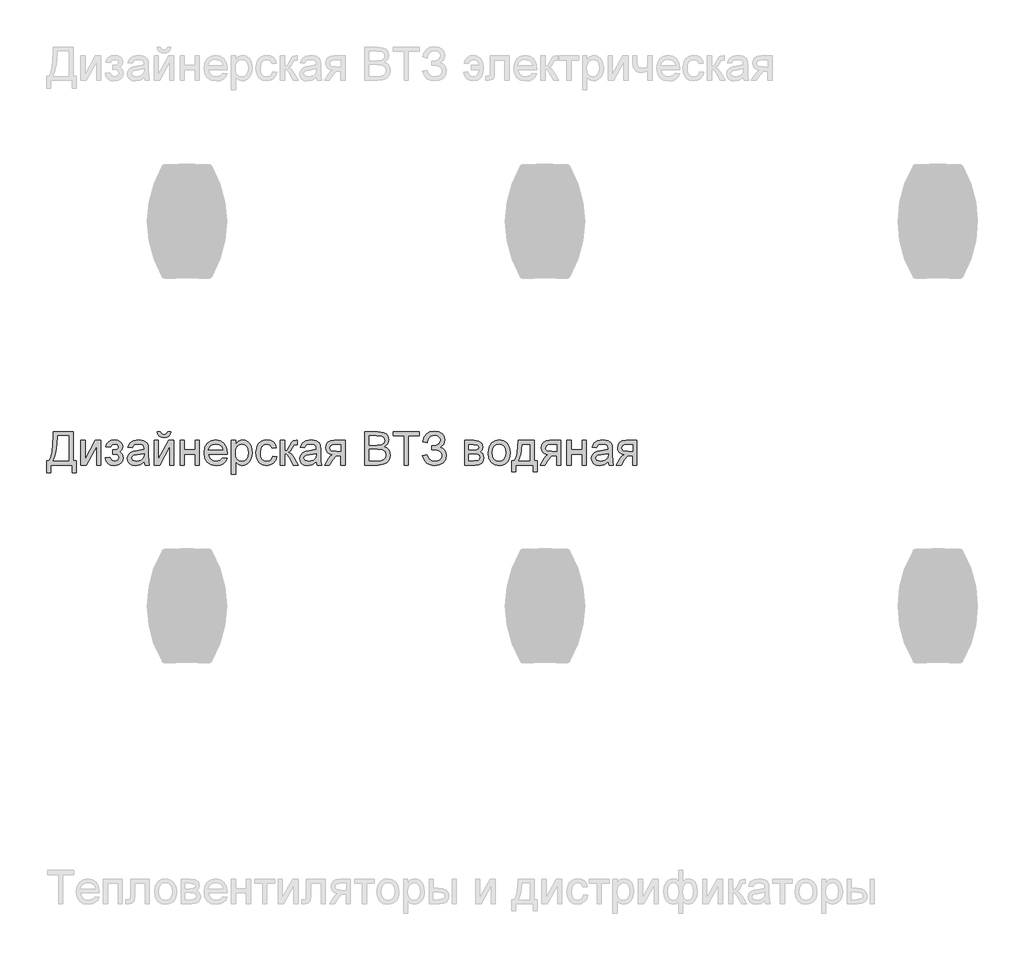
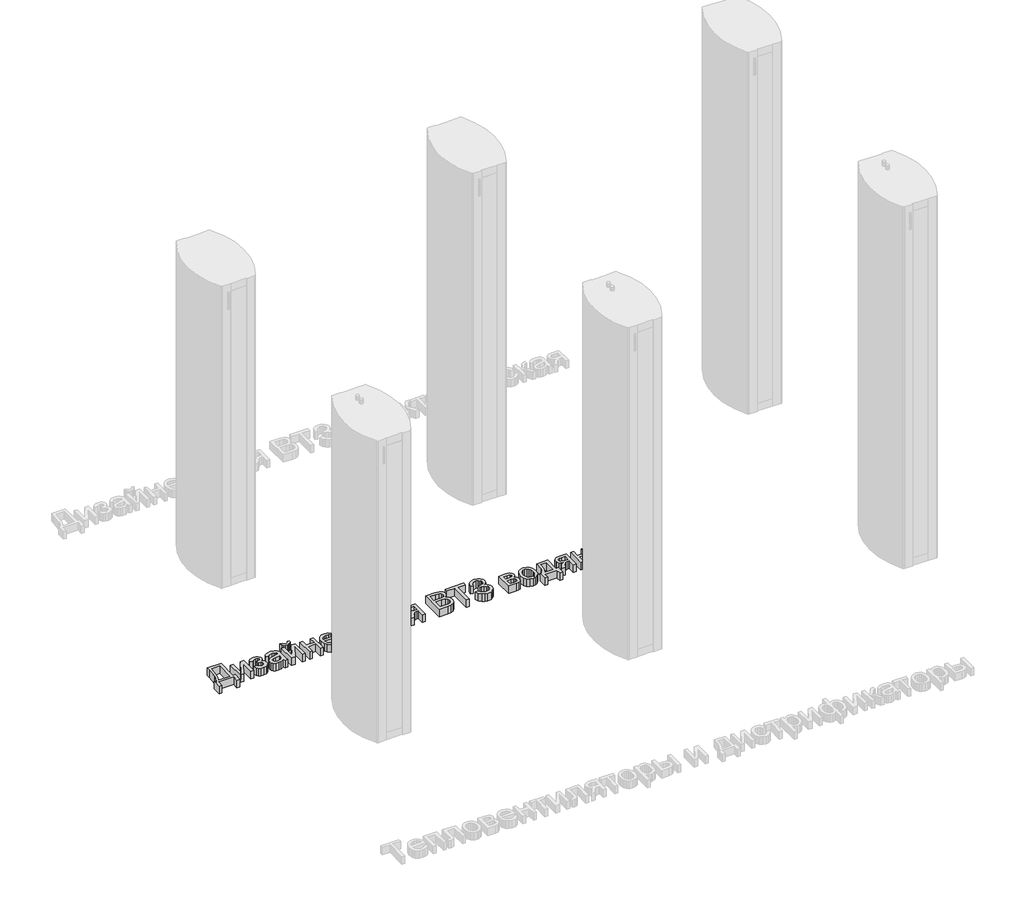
# One storey, part 3 of 6: 1 proxy.
"""IFC4 building model written with IfcOpenShell, lengths in millimetres."""

from ifc_helpers import new_model, si_unit, origin, origin_with_axes, place, context, project, spatial, polyline, outline, extrude, element, save

model = new_model("IFC4")

# Units and contexts
model_context = context("Model", 3, world=origin())
ifc_project = project(units=[si_unit("LENGTHUNIT", "METRE", prefix="MILLI")], contexts=[model_context])

# Site, building, storey
site = spatial("IfcSite", under=ifc_project)
building = spatial("IfcBuilding", under=site)
storey = spatial("IfcBuildingStorey", under=building, Name="Уровень 1", Elevation=0.0)

# Proxy
placement = place(None, origin())
element("IfcBuildingElementProxy", 1, Name="600 мм Arial", ObjectType="600 мм Arial", at=placement, inside=storey, context=model_context, shape_type="SweptSolid", body=[
    extrude(outline(polyline([(-13728.2393445, -2903.3925368), (-13640.5470368, -2903.3925368), (-13640.5470368, -3032.6233061), (-13626.700883, -3032.6233061), (-13626.700883, -3085.7002291), (-13645.1624214, -3085.7002291), (-13645.1624214, -3051.0848445), (-13739.777806, -3051.0848445), (-13739.777806, -3085.7002291), (-13758.2393445, -3085.7002291), (-13758.2393445, -3032.6233061), (-13746.700883, -3032.6233061), (-13738.6239599, -3015.8767616), (-13732.8547291, -2992.3198205), (-13728.2393445, -2924.7747484), (-13728.2393445, -2903.3925368)]), holes=[polyline([(-13659.0085753, -2921.8540753), (-13709.777806, -2921.8540753), (-13709.777806, -2929.2819599), (-13713.527806, -2979.8709022), (-13719.0806907, -3009.1046762), (-13728.2393445, -3032.6233061), (-13659.0085753, -3032.6233061), (-13659.0085753, -2921.8540753)])]), origin_with_axes(), (0.0, 0.0, 1.0), 50.0),
    extrude(outline(polyline([(-13605.9316522, -2942.6233061), (-13587.4701137, -2942.6233061), (-13587.4701137, -3025.3396522), (-13542.1095368, -2942.6233061), (-13518.2393445, -2942.6233061), (-13518.2393445, -3051.0848445), (-13536.700883, -3051.0848445), (-13536.700883, -2968.8733061), (-13581.7729983, -3051.0848445), (-13605.9316522, -3051.0848445), (-13605.9316522, -2942.6233061)])), origin_with_axes(), (0.0, 0.0, 1.0), 50.0),
    extrude(outline(polyline([(-13465.1624214, -3002.6233061), (-13465.1624214, -2984.1617676), (-13450.5951137, -2983.4406137), (-13443.2393445, -2979.6004695), (-13439.777806, -2971.577633), (-13444.4112195, -2962.2567195), (-13456.3643445, -2958.7771522), (-13468.7141041, -2962.2386907), (-13476.700883, -2972.6233061), (-13497.4701137, -2970.3156137), (-13491.9623012, -2957.1906137), (-13483.5879022, -2947.8156137), (-13472.3469166, -2942.1906137), (-13458.2393445, -2940.3156137), (-13442.8066522, -2942.60077), (-13431.1239599, -2949.4562387), (-13423.7681907, -2959.4847844), (-13421.3162676, -2971.2891714), (-13424.8048493, -2982.7555176), (-13435.2705945, -2991.6257099), (-13423.0650657, -3003.1281137), (-13419.0085753, -3019.6785945), (-13421.5821931, -3033.2678373), (-13429.3030464, -3044.0355657), (-13441.6482988, -3051.053294), (-13458.0951137, -3053.3925368), (-13474.1813517, -3051.2290753), (-13486.4905464, -3044.7386907), (-13495.0226979, -3033.921383), (-13499.777806, -3018.7771522), (-13479.0085753, -3016.4694599), (-13470.6792483, -3030.0992676), (-13456.3282868, -3034.9309984), (-13442.8427099, -3030.2975849), (-13437.4701137, -3018.452633), (-13440.8054503, -3008.7531137), (-13447.9088157, -3003.5608061), (-13461.5566522, -3002.515133), (-13465.1624214, -3002.6233061)])), origin_with_axes(), (0.0, 0.0, 1.0), 50.0),
    extrude(outline(polyline([(-13326.700883, -3037.2386907), (-13344.6035272, -3049.7507099), (-13364.3811714, -3053.3925368), (-13379.8093565, -3051.202032), (-13391.1900657, -3044.6305176), (-13398.207794, -3034.6515512), (-13400.5470368, -3022.2386907), (-13397.013383, -3007.6353253), (-13387.7285272, -2997.0343637), (-13374.8018445, -2990.9766714), (-13358.8282868, -2988.2002291), (-13326.809056, -2981.8540753), (-13326.700883, -2977.7434984), (-13327.9719166, -2969.5043157), (-13331.7850176, -2964.1136907), (-13340.3126618, -2960.1112868), (-13352.1936714, -2958.7771522), (-13370.871556, -2962.3288349), (-13379.777806, -2974.9309984), (-13398.2393445, -2972.6233061), (-13390.2525657, -2954.5944599), (-13374.1708349, -2944.0295561), (-13349.8138637, -2940.3156137), (-13327.4400657, -2943.5968637), (-13314.8018445, -2951.8360464), (-13309.1407868, -2964.3660945), (-13308.2393445, -2980.5199407), (-13308.2393445, -3003.4886907), (-13307.3018445, -3035.562008), (-13303.6239599, -3051.0848445), (-13322.0854983, -3051.0848445), (-13326.700883, -3037.2386907)]), holes=[polyline([(-13326.700883, -3000.3156137), (-13356.4845368, -3005.9766714), (-13372.3679503, -3008.9694599), (-13379.5614599, -3013.8372484), (-13382.0854983, -3020.9406137), (-13376.5867003, -3030.9285945), (-13360.450883, -3034.9309984), (-13341.7729983, -3030.5139311), (-13329.7297291, -3019.8228253), (-13326.809056, -3005.5439791), (-13326.700883, -3000.3156137)])]), origin_with_axes(), (0.0, 0.0, 1.0), 50.0),
    extrude(outline(polyline([(-13222.8547291, -2903.3925368), (-13209.0085753, -2903.3925368), (-13211.9878421, -2915.2149527), (-13217.9689118, -2923.9273926), (-13226.6813517, -2929.2954815), (-13237.8547291, -2931.0848445), (-13249.9791282, -2929.3090032), (-13259.3811714, -2923.9814791), (-13265.8084551, -2915.2825609), (-13269.0085753, -2903.3925368), (-13255.1624214, -2903.3925368), (-13249.9701137, -2913.7951811), (-13239.513383, -2917.2386907), (-13228.0470368, -2913.9033541), (-13222.8547291, -2903.3925368)])), origin_with_axes(), (0.0, 0.0, 1.0), 50.0),
    extrude(outline(polyline([(-13282.8547291, -2942.6233061), (-13264.3931907, -2942.6233061), (-13264.3931907, -3025.3396522), (-13219.0326137, -2942.6233061), (-13195.1624214, -2942.6233061), (-13195.1624214, -3051.0848445), (-13213.6239599, -3051.0848445), (-13213.6239599, -2968.8733061), (-13258.6960753, -3051.0848445), (-13282.8547291, -3051.0848445), (-13282.8547291, -2942.6233061)])), origin_with_axes(), (0.0, 0.0, 1.0), 50.0),
    extrude(outline(polyline([(-13167.4701137, -2942.6233061), (-13149.0085753, -2942.6233061), (-13149.0085753, -2984.1617676), (-13100.5470368, -2984.1617676), (-13100.5470368, -2942.6233061), (-13082.0854983, -2942.6233061), (-13082.0854983, -3051.0848445), (-13100.5470368, -3051.0848445), (-13100.5470368, -3002.6233061), (-13149.0085753, -3002.6233061), (-13149.0085753, -3051.0848445), (-13167.4701137, -3051.0848445), (-13167.4701137, -2942.6233061)])), origin_with_axes(), (0.0, 0.0, 1.0), 50.0),
    extrude(outline(polyline([(-12978.4556907, -3018.7771522), (-12960.3547291, -3021.0848445), (-12966.8766642, -3034.7236666), (-12977.2838157, -3044.9189791), (-12991.3418084, -3051.2741474), (-13008.8162676, -3053.3925368), (-13030.4779262, -3049.7371883), (-13047.1455945, -3038.7711426), (-13057.7735993, -3021.2065392), (-13061.3162676, -2997.7555176), (-13057.7375416, -2973.5157339), (-13047.0013637, -2955.3877291), (-13030.559056, -2944.0836426), (-13009.8619407, -2940.3156137), (-12989.8093565, -2944.0746282), (-12973.7862195, -2955.3516714), (-12963.2799094, -2973.4436186), (-12959.777806, -2997.6473445), (-12959.8859791, -3002.6233061), (-13042.8547291, -3002.6233061), (-13039.6591161, -3016.4424166), (-13032.2357387, -3026.6016714), (-13021.5220969, -3032.8486666), (-13008.4556907, -3034.9309984), (-12990.3547291, -3031.0728253), (-12978.4556907, -3018.7771522)]), holes=[polyline([(-13042.8547291, -2984.1617676), (-12978.2393445, -2984.1617676), (-12980.7363397, -2974.4081618), (-12985.6311714, -2967.4309984), (-12996.3943926, -2960.9406137), (-13009.934056, -2958.7771522), (-13022.3784671, -2960.5034142), (-13032.668431, -2965.6822003), (-13039.8213758, -2973.7546162), (-13042.8547291, -2984.1617676)])]), origin_with_axes(), (0.0, 0.0, 1.0), 50.0),
    extrude(outline(polyline([(-12941.3162676, -3092.6233061), (-12941.3162676, -2942.6233061), (-12922.8547291, -2942.6233061), (-12922.8547291, -2960.7242676), (-12910.090306, -2945.4177772), (-12892.8547291, -2940.3156137), (-12880.3697532, -2942.1004695), (-12869.4532868, -2947.4550368), (-12860.5650657, -2956.0547964), (-12854.1648253, -2967.5752291), (-12849.0085753, -2996.0247484), (-12850.4644046, -3011.8135104), (-12854.8318926, -3025.9346041), (-12861.9713157, -3037.671383), (-12871.7429503, -3046.3072003), (-12883.1236594, -3051.6212027), (-12895.090306, -3053.3925368), (-12911.154008, -3048.6509503), (-12922.8547291, -3036.6617676), (-12922.8547291, -3092.6233061), (-12941.3162676, -3092.6233061)]), holes=[polyline([(-12922.8547291, -2997.7194599), (-12920.8580344, -3014.2699407), (-12914.8679503, -3025.8444599), (-12906.0293084, -3032.6593637), (-12895.4869407, -3034.9309984), (-12884.7732988, -3032.5782339), (-12875.7092964, -3025.5199407), (-12869.5299094, -3013.5217436), (-12867.4701137, -2996.3492676), (-12869.4803301, -2979.8889311), (-12875.5109791, -2968.1521522), (-12884.3360993, -2961.1209022), (-12894.7297291, -2958.7771522), (-12905.1639238, -2961.2696402), (-12914.3270849, -2968.7471041), (-12920.7228181, -2980.975169), (-12922.8547291, -2997.7194599)])]), origin_with_axes(), (0.0, 0.0, 1.0), 50.0),
    extrude(outline(polyline([(-12759.0085753, -3011.8540753), (-12740.5470368, -3014.1617676), (-12745.6942724, -3030.5815392), (-12755.3667483, -3042.9898926), (-12768.654008, -3050.7918758), (-12784.6455945, -3053.3925368), (-12804.2835152, -3049.7642315), (-12819.6395849, -3038.8793157), (-12829.5509431, -3021.2155537), (-12832.8547291, -2997.2507099), (-12827.2117003, -2966.5836426), (-12820.090306, -2955.085746), (-12810.012181, -2946.8781137), (-12797.9553902, -2941.9562387), (-12784.8979983, -2940.3156137), (-12769.2985392, -2942.5692195), (-12756.8270849, -2949.3300368), (-12747.88027, -2960.2374887), (-12742.8547291, -2974.9309984), (-12761.3162676, -2977.2386907), (-12769.8799695, -2963.4105657), (-12784.7537676, -2958.7771522), (-12796.6843565, -2961.0578012), (-12806.154008, -2967.8997484), (-12812.333395, -2979.6725849), (-12814.3931907, -2996.7459022), (-12812.3784671, -3014.0490873), (-12806.3342964, -3025.8624887), (-12797.035919, -3032.663871), (-12785.2585753, -3034.9309984), (-12775.6987796, -3033.5157339), (-12767.8607387, -3029.2699407), (-12762.1591161, -3022.0854455), (-12759.0085753, -3011.8540753)])), origin_with_axes(), (0.0, 0.0, 1.0), 50.0),
    extrude(outline(polyline([(-12724.3931907, -2942.6233061), (-12705.9316522, -2942.6233061), (-12705.9316522, -2988.7771522), (-12693.5638637, -2985.4598445), (-12683.4316522, -2966.1329214), (-12675.012181, -2949.4562387), (-12667.5842964, -2944.0295561), (-12654.0806907, -2942.6233061), (-12650.5470368, -2942.6233061), (-12650.5470368, -2961.1930176), (-12655.5229983, -2961.0848445), (-12664.5374214, -2963.0319599), (-12670.8835753, -2975.1834022), (-12678.3294887, -2988.3264311), (-12688.7681907, -2994.7627291), (-12677.121556, -3001.9472243), (-12665.6912676, -3017.0824407), (-12645.9316522, -3051.0848445), (-12666.9172291, -3051.0848445), (-12686.2802099, -3017.8035945), (-12696.0157868, -3003.7230657), (-12705.9316522, -3000.3156137), (-12705.9316522, -3051.0848445), (-12724.3931907, -3051.0848445), (-12724.3931907, -2942.6233061)])), origin_with_axes(), (0.0, 0.0, 1.0), 50.0),
    extrude(outline(polyline([(-12565.1624214, -3037.2386907), (-12583.0650657, -3049.7507099), (-12602.8427099, -3053.3925368), (-12618.270895, -3051.202032), (-12629.6516041, -3044.6305176), (-12636.6693325, -3034.6515512), (-12639.0085753, -3022.2386907), (-12635.4749214, -3007.6353253), (-12626.1900657, -2997.0343637), (-12613.263383, -2990.9766714), (-12597.2898253, -2988.2002291), (-12565.2705945, -2981.8540753), (-12565.1624214, -2977.7434984), (-12566.4334551, -2969.5043157), (-12570.246556, -2964.1136907), (-12578.7742003, -2960.1112868), (-12590.6552099, -2958.7771522), (-12609.3330945, -2962.3288349), (-12618.2393445, -2974.9309984), (-12636.700883, -2972.6233061), (-12628.7141041, -2954.5944599), (-12612.6323733, -2944.0295561), (-12588.2754022, -2940.3156137), (-12565.9016041, -2943.5968637), (-12553.263383, -2951.8360464), (-12547.6023253, -2964.3660945), (-12546.700883, -2980.5199407), (-12546.700883, -3003.4886907), (-12545.763383, -3035.562008), (-12542.0854983, -3051.0848445), (-12560.5470368, -3051.0848445), (-12565.1624214, -3037.2386907)]), holes=[polyline([(-12565.1624214, -3000.3156137), (-12594.9460753, -3005.9766714), (-12610.8294887, -3008.9694599), (-12618.0229983, -3013.8372484), (-12620.5470368, -3020.9406137), (-12615.0482387, -3030.9285945), (-12598.9124214, -3034.9309984), (-12580.2345368, -3030.5139311), (-12568.1912676, -3019.8228253), (-12565.2705945, -3005.5439791), (-12565.1624214, -3000.3156137)])]), origin_with_axes(), (0.0, 0.0, 1.0), 50.0),
    extrude(outline(polyline([(-12438.2393445, -2942.6233061), (-12438.2393445, -3051.0848445), (-12456.700883, -3051.0848445), (-12456.700883, -3009.546383), (-12466.7609791, -3009.546383), (-12480.4629022, -3011.890133), (-12493.3354983, -3027.6473445), (-12508.0470368, -3051.0848445), (-12529.3931907, -3051.0848445), (-12510.8595368, -3021.4454214), (-12502.6744407, -3010.8084022), (-12495.138383, -3006.0848445), (-12507.7585753, -3002.217657), (-12516.6287676, -2994.8709022), (-12521.8751618, -2985.0992676), (-12523.6239599, -2973.9574407), (-12521.2351378, -2961.3192195), (-12514.0686714, -2951.3132099), (-12502.3769647, -2944.795782), (-12486.4124214, -2942.6233061), (-12438.2393445, -2942.6233061)]), holes=[polyline([(-12456.700883, -2961.0848445), (-12481.0398253, -2961.0848445), (-12493.6104383, -2962.1530537), (-12500.7453541, -2965.3576811), (-12505.1624214, -2975.3636907), (-12503.5353181, -2982.3994479), (-12498.654008, -2987.280758), (-12475.5951137, -2991.0848445), (-12456.700883, -2991.0848445), (-12456.700883, -2961.0848445)])]), origin_with_axes(), (0.0, 0.0, 1.0), 50.0),
    extrude(outline(polyline([(-12350.5470368, -3051.0848445), (-12350.5470368, -2903.3925368), (-12294.1888637, -2903.3925368), (-12266.5867003, -2907.7374887), (-12257.3108589, -2913.2498085), (-12250.2886233, -2921.0968637), (-12244.3931907, -2939.9910945), (-12249.3511233, -2957.2447003), (-12264.3330945, -2970.3156137), (-12253.8718565, -2975.7783541), (-12246.1419887, -2984.0896522), (-12241.3688517, -2994.6996282), (-12239.777806, -3007.0584022), (-12244.122758, -3026.9081618), (-12254.8859791, -3041.0427772), (-12270.949681, -3048.5427772), (-12294.621556, -3051.0848445), (-12350.5470368, -3051.0848445)]), holes=[polyline([(-12332.0854983, -2963.3925368), (-12298.371556, -2963.3925368), (-12278.684056, -2961.8059984), (-12266.8391041, -2954.9730657), (-12262.8547291, -2942.9478253), (-12266.5686714, -2930.9045561), (-12277.2056907, -2923.7831618), (-12300.9316522, -2921.8540753), (-12332.0854983, -2921.8540753), (-12332.0854983, -2963.3925368)]), polyline([(-12332.0854983, -3032.6233061), (-12294.2249214, -3032.6233061), (-12280.5229983, -3031.9021522), (-12268.9304503, -3027.8817195), (-12261.2501618, -3019.6785945), (-12258.2393445, -3007.2386907), (-12261.7729983, -2992.8877291), (-12273.2213157, -2984.3240272), (-12296.027806, -2981.8540753), (-12332.0854983, -2981.8540753), (-12332.0854983, -3032.6233061)])]), origin_with_axes(), (0.0, 0.0, 1.0), 50.0),
    extrude(outline(polyline([(-12177.4701137, -3051.0848445), (-12177.4701137, -2921.8540753), (-12225.9316522, -2921.8540753), (-12225.9316522, -2903.3925368), (-12110.5470368, -2903.3925368), (-12110.5470368, -2921.8540753), (-12159.0085753, -2921.8540753), (-12159.0085753, -3051.0848445), (-12177.4701137, -3051.0848445)])), origin_with_axes(), (0.0, 0.0, 1.0), 50.0),
    extrude(outline(polyline([(-12096.700883, -3009.546383), (-12078.2393445, -3004.9309984), (-12066.8992003, -3024.9249887), (-12056.1855584, -3032.429496), (-12042.4701137, -3034.9309984), (-12028.5743806, -3033.0514912), (-12017.9689118, -3027.4129695), (-12011.2486594, -3019.1151931), (-12009.0085753, -3009.2579214), (-12011.4559911, -2998.9318998), (-12018.7982387, -2990.9586426), (-12030.3592363, -2985.8609863), (-12045.4629022, -2984.1617676), (-12055.1624214, -2984.1617676), (-12055.1624214, -2965.7002291), (-12034.2669887, -2964.2038349), (-12021.4845368, -2956.5596041), (-12015.9316522, -2942.5872484), (-12017.7796089, -2933.8928373), (-12023.3234791, -2926.4153734), (-12032.0223974, -2921.2636306), (-12043.3354983, -2919.546383), (-12062.1756426, -2924.8288349), (-12072.9568926, -2938.8372484), (-12075.9316522, -2951.8540753), (-12094.3931907, -2947.2386907), (-12088.657764, -2927.046383), (-12078.2663878, -2912.6233061), (-12063.219062, -2903.9694599), (-12043.5157868, -2901.0848445), (-12024.5088758, -2904.0821402), (-12009.8919887, -2913.0740272), (-12000.5755825, -2926.0773325), (-11997.4701137, -2941.108883), (-12002.3018445, -2959.3811186), (-12016.7970368, -2973.0199407), (-12006.5296089, -2977.7480056), (-11998.0830945, -2985.7302772), (-11992.4310512, -2996.2816594), (-11990.5470368, -3008.7170561), (-11994.1618205, -3026.2005296), (-12005.0061714, -3040.5740272), (-12021.8180705, -3050.1879094), (-12043.3354983, -3053.3925368), (-12062.0584551, -3050.6521522), (-12077.1936714, -3042.4309984), (-12088.7411474, -3028.7290753), (-12096.700883, -3009.546383)])), origin_with_axes(), (0.0, 0.0, 1.0), 50.0),
    extrude(outline(polyline([(-11909.777806, -2942.6233061), (-11869.1047291, -2942.6233061), (-11846.8030464, -2945.093258), (-11834.2549695, -2954.1437387), (-11829.0085753, -2969.9189791), (-11832.1816522, -2982.7374887), (-11841.7369407, -2991.8781137), (-11829.3330945, -3001.8841234), (-11824.3931907, -3019.2819599), (-11827.5211955, -3033.3534743), (-11834.9580945, -3043.2603253), (-11846.730931, -3049.1287147), (-11862.8667483, -3051.0848445), (-11909.777806, -3051.0848445), (-11909.777806, -2942.6233061)]), holes=[polyline([(-11891.3162676, -2984.1617676), (-11873.0710753, -2984.1617676), (-11858.0169887, -2983.2242676), (-11850.6972772, -2979.4742676), (-11847.4701137, -2972.6954214), (-11848.8853782, -2967.1876089), (-11853.1311714, -2963.6449407), (-11872.4941522, -2961.0848445), (-11891.3162676, -2961.0848445), (-11891.3162676, -2984.1617676)]), polyline([(-11891.3162676, -3032.6233061), (-11868.6720368, -3032.6233061), (-11848.5879022, -3029.2879695), (-11844.4322532, -3024.7401931), (-11842.8547291, -3017.7675368), (-11846.0097772, -3008.8793157), (-11854.230931, -3003.7050368), (-11870.4749214, -3002.6233061), (-11891.3162676, -3002.6233061), (-11891.3162676, -3032.6233061)])]), origin_with_axes(), (0.0, 0.0, 1.0), 50.0),
    extrude(outline(polyline([(-11805.9316522, -2996.8540753), (-11801.9382628, -2970.7032339), (-11789.9580945, -2952.3228253), (-11775.1564118, -2943.3174166), (-11757.434056, -2940.3156137), (-11738.0395248, -2943.9709623), (-11722.5482387, -2954.937008), (-11712.3934911, -2972.3483662), (-11709.0085753, -2995.3396522), (-11710.5049695, -3013.9904936), (-11714.9941522, -3028.1882099), (-11722.3454142, -3038.8207219), (-11732.4280464, -3046.7759503), (-11744.4037075, -3051.7383902), (-11757.434056, -3053.3925368), (-11777.0629623, -3049.7507099), (-11792.5362195, -3038.8252291), (-11802.582794, -3021.0487868), (-11805.9316522, -2996.8540753)]), holes=[polyline([(-11787.4701137, -2996.8180176), (-11785.3336955, -3013.5262508), (-11778.9244407, -3025.4297964), (-11769.279008, -3032.5556979), (-11757.434056, -3034.9309984), (-11745.6431907, -3032.5421762), (-11736.0157868, -3025.3757099), (-11729.606532, -3013.3144118), (-11727.4701137, -2996.2410945), (-11729.6200536, -2980.0196402), (-11736.0698733, -2968.2783541), (-11745.7107988, -2961.1524527), (-11757.434056, -2958.7771522), (-11769.279008, -2961.1434383), (-11778.9244407, -2968.2422964), (-11785.3336955, -2980.1187988), (-11787.4701137, -2996.8180176)])]), origin_with_axes(), (0.0, 0.0, 1.0), 50.0),
    extrude(outline(polyline([(-11672.0854983, -2942.6233061), (-11602.8547291, -2942.6233061), (-11602.8547291, -3032.6233061), (-11589.0085753, -3032.6233061), (-11589.0085753, -3081.0848445), (-11607.4701137, -3081.0848445), (-11607.4701137, -3051.0848445), (-11683.6239599, -3051.0848445), (-11683.6239599, -3081.0848445), (-11702.0854983, -3081.0848445), (-11702.0854983, -3032.6233061), (-11690.5470368, -3032.6233061), (-11682.1591161, -3017.4655537), (-11676.2862195, -2997.4129695), (-11672.0854983, -2942.6233061)]), holes=[polyline([(-11655.9316522, -2961.0848445), (-11660.2585753, -3003.1461426), (-11669.777806, -3032.6233061), (-11621.3162676, -3032.6233061), (-11621.3162676, -2961.0848445), (-11655.9316522, -2961.0848445)])]), origin_with_axes(), (0.0, 0.0, 1.0), 50.0),
    extrude(outline(polyline([(-11485.1624214, -2942.6233061), (-11485.1624214, -3051.0848445), (-11503.6239599, -3051.0848445), (-11503.6239599, -3009.546383), (-11513.684056, -3009.546383), (-11527.3859791, -3011.890133), (-11540.2585753, -3027.6473445), (-11554.9701137, -3051.0848445), (-11576.3162676, -3051.0848445), (-11557.7826137, -3021.4454214), (-11549.5975176, -3010.8084022), (-11542.0614599, -3006.0848445), (-11554.6816522, -3002.217657), (-11563.5518445, -2994.8709022), (-11568.7982387, -2985.0992676), (-11570.5470368, -2973.9574407), (-11568.1582147, -2961.3192195), (-11560.9917483, -2951.3132099), (-11549.3000416, -2944.795782), (-11533.3354983, -2942.6233061), (-11485.1624214, -2942.6233061)]), holes=[polyline([(-11503.6239599, -2961.0848445), (-11527.9629022, -2961.0848445), (-11540.5335152, -2962.1530537), (-11547.668431, -2965.3576811), (-11552.0854983, -2975.3636907), (-11550.458395, -2982.3994479), (-11545.5770849, -2987.280758), (-11522.5181907, -2991.0848445), (-11503.6239599, -2991.0848445), (-11503.6239599, -2961.0848445)])]), origin_with_axes(), (0.0, 0.0, 1.0), 50.0),
    extrude(outline(polyline([(-11457.4701137, -2942.6233061), (-11439.0085753, -2942.6233061), (-11439.0085753, -2984.1617676), (-11390.5470368, -2984.1617676), (-11390.5470368, -2942.6233061), (-11372.0854983, -2942.6233061), (-11372.0854983, -3051.0848445), (-11390.5470368, -3051.0848445), (-11390.5470368, -3002.6233061), (-11439.0085753, -3002.6233061), (-11439.0085753, -3051.0848445), (-11457.4701137, -3051.0848445), (-11457.4701137, -2942.6233061)])), origin_with_axes(), (0.0, 0.0, 1.0), 50.0),
    extrude(outline(polyline([(-11275.1624214, -3037.2386907), (-11293.0650657, -3049.7507099), (-11312.8427099, -3053.3925368), (-11328.270895, -3051.202032), (-11339.6516041, -3044.6305176), (-11346.6693325, -3034.6515512), (-11349.0085753, -3022.2386907), (-11345.4749214, -3007.6353253), (-11336.1900657, -2997.0343637), (-11323.263383, -2990.9766714), (-11307.2898253, -2988.2002291), (-11275.2705945, -2981.8540753), (-11275.1624214, -2977.7434984), (-11276.4334551, -2969.5043157), (-11280.246556, -2964.1136907), (-11288.7742003, -2960.1112868), (-11300.6552099, -2958.7771522), (-11319.3330945, -2962.3288349), (-11328.2393445, -2974.9309984), (-11346.700883, -2972.6233061), (-11338.7141041, -2954.5944599), (-11322.6323733, -2944.0295561), (-11298.2754022, -2940.3156137), (-11275.9016041, -2943.5968637), (-11263.263383, -2951.8360464), (-11257.6023253, -2964.3660945), (-11256.700883, -2980.5199407), (-11256.700883, -3003.4886907), (-11255.763383, -3035.562008), (-11252.0854983, -3051.0848445), (-11270.5470368, -3051.0848445), (-11275.1624214, -3037.2386907)]), holes=[polyline([(-11275.1624214, -3000.3156137), (-11304.9460753, -3005.9766714), (-11320.8294887, -3008.9694599), (-11328.0229983, -3013.8372484), (-11330.5470368, -3020.9406137), (-11325.0482387, -3030.9285945), (-11308.9124214, -3034.9309984), (-11290.2345368, -3030.5139311), (-11278.1912676, -3019.8228253), (-11275.2705945, -3005.5439791), (-11275.1624214, -3000.3156137)])]), origin_with_axes(), (0.0, 0.0, 1.0), 50.0),
    extrude(outline(polyline([(-11148.2393445, -2942.6233061), (-11148.2393445, -3051.0848445), (-11166.700883, -3051.0848445), (-11166.700883, -3009.546383), (-11176.7609791, -3009.546383), (-11190.4629022, -3011.890133), (-11203.3354983, -3027.6473445), (-11218.0470368, -3051.0848445), (-11239.3931907, -3051.0848445), (-11220.8595368, -3021.4454214), (-11212.6744407, -3010.8084022), (-11205.138383, -3006.0848445), (-11217.7585753, -3002.217657), (-11226.6287676, -2994.8709022), (-11231.8751618, -2985.0992676), (-11233.6239599, -2973.9574407), (-11231.2351378, -2961.3192195), (-11224.0686714, -2951.3132099), (-11212.3769647, -2944.795782), (-11196.4124214, -2942.6233061), (-11148.2393445, -2942.6233061)]), holes=[polyline([(-11166.700883, -2961.0848445), (-11191.0398253, -2961.0848445), (-11203.6104383, -2962.1530537), (-11210.7453541, -2965.3576811), (-11215.1624214, -2975.3636907), (-11213.5353181, -2982.3994479), (-11208.654008, -2987.280758), (-11185.5951137, -2991.0848445), (-11166.700883, -2991.0848445), (-11166.700883, -2961.0848445)])]), origin_with_axes(), (0.0, 0.0, 1.0), 50.0),
])

save(model, "model.ifc")
